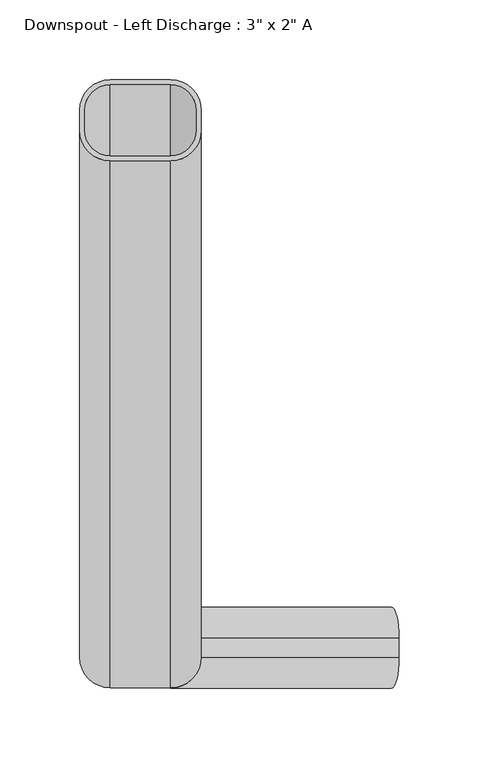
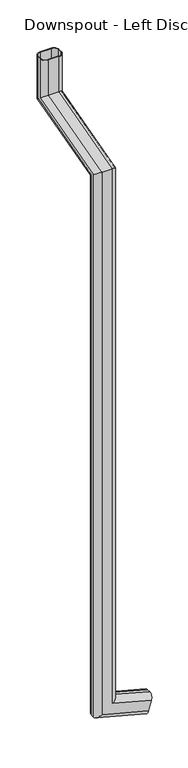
"""IFC4 building model written with IfcOpenShell, lengths in millimetres: proxy geometry."""

from ifc_helpers import new_model, si_unit, frame, origin, place, context, project, spatial, polyline, circle_curve, ellipse_curve, source, transform, mapped, element, save
from ifc_brep_helpers import plane_surface, cylinder_surface, revolved_surface, advanced_brep


def proxy_a602e200(model_context):
    return source(origin(), model_context, "Body", "AdvancedBrep", [
        advanced_brep(
        [(162.2610056, 196.85, 189.201774), (157.3305028, 177.8, 170.800887), (147.4694972, 177.8, 133.999113), (142.5389944, 196.85, 115.598226), (142.5389944, 209.55, 115.598226), (147.4694972, 228.6, 133.999113), (157.3305028, 228.6, 170.800887), (162.2610056, 209.55, 189.201774), (161.4392552, 196.85, 186.1349595), (161.4392552, 209.55, 186.1349595), (157.3305028, 225.425, 170.800887), (147.4694972, 225.425, 133.999113), (143.3607448, 209.55, 118.6650405), (143.3607448, 196.85, 118.6650405), (147.4694972, 180.975, 133.999113), (157.3305028, 180.975, 170.800887), (19.05, 177.8, 207.853036), (38.1, 196.85, 222.4706152), (38.1, 196.85, 2202.395703), (19.05, 177.8, 2217.0132822), (-38.1, 196.85, 164.0002987), (-19.05, 177.8, 178.6178778), (-19.05, 177.8, 2217.0132822), (-38.1, 196.85, 2202.395703), (-38.1, 209.55, 164.0002987), (-38.1, 527.05, 2290.8725264), (-38.1, 527.05, 2438.4), (-38.1, 539.75, 2438.4), (-38.1, 539.75, 2281.1274736), (-38.1, 209.55, 2192.6506503), (-19.05, 228.6, 178.6178778), (-19.05, 228.6, 2178.0330712), (38.1, 209.55, 222.4706152), (19.05, 228.6, 207.853036), (19.05, 228.6, 2178.0330712), (38.1, 209.55, 2192.6506503), (38.1, 539.75, 2281.1274736), (38.1, 539.75, 2438.4), (38.1, 527.05, 2438.4), (38.1, 527.05, 2290.8725264), (34.925, 209.55, 220.034352), (34.925, 196.85, 220.034352), (34.925, 196.85, 2202.395703), (34.925, 527.05, 2290.8725264), (34.925, 527.05, 2438.4), (34.925, 539.75, 2438.4), (34.925, 539.75, 2281.1274736), (34.925, 209.55, 2192.6506503), (19.05, 225.425, 207.853036), (19.05, 225.425, 2180.4693344), (-34.925, 209.55, 166.4365619), (-19.05, 225.425, 178.6178778), (-19.05, 225.425, 2180.4693344), (-34.925, 209.55, 2192.6506503), (-34.925, 196.85, 166.4365619), (-34.925, 539.75, 2281.1274736), (-34.925, 539.75, 2438.4), (-34.925, 527.05, 2438.4), (-34.925, 527.05, 2290.8725264), (-34.925, 196.85, 2202.395703), (-19.05, 180.975, 178.6178778), (-19.05, 180.975, 2214.577019), (19.05, 180.975, 207.853036), (19.05, 180.975, 2214.577019), (19.05, 508.0, 2305.4901055), (-19.05, 508.0, 2305.4901055), (-19.05, 558.8, 2266.5098945), (19.05, 558.8, 2266.5098945), (19.05, 555.625, 2268.9461577), (-19.05, 555.625, 2268.9461577), (-19.05, 511.175, 2303.0538423), (19.05, 511.175, 2303.0538423), (19.05, 558.8, 2438.4), (-19.05, 558.8, 2438.4), (-19.05, 508.0, 2438.4), (19.05, 508.0, 2438.4), (19.05, 511.175, 2438.4), (-19.05, 511.175, 2438.4), (-19.05, 555.625, 2438.4), (19.05, 555.625, 2438.4)],
        [
            (0, 1, circle_curve(frame((157.3305028, 196.85, 170.800887), z_axis=(0.9659258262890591, 0.0, -0.25881904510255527), x_axis=(0.0, -1.0, 0.0)), 19.05)),
            (1, 2),
            (2, 3, circle_curve(frame((147.4694972, 196.85, 133.999113), z_axis=(0.9659258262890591, 0.0, -0.25881904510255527), x_axis=(0.0, -1.0, 0.0)), 19.05)),
            (3, 4),
            (4, 5, circle_curve(frame((147.4694972, 209.55, 133.999113), z_axis=(0.9659258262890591, 0.0, -0.25881904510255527), x_axis=(0.0, -1.0, 0.0)), 19.05)),
            (5, 6),
            (6, 7, circle_curve(frame((157.3305028, 209.55, 170.800887), z_axis=(0.9659258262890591, 0.0, -0.25881904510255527), x_axis=(0.0, -1.0, 0.0)), 19.05)),
            (7, 0),
            (8, 9),
            (9, 10, circle_curve(frame((157.3305028, 209.55, 170.800887), z_axis=(-0.9659258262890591, 0.0, 0.25881904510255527), x_axis=(0.0, -1.0, 0.0)), 15.875)),
            (10, 11),
            (11, 12, circle_curve(frame((147.4694972, 209.55, 133.999113), z_axis=(-0.9659258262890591, 0.0, 0.25881904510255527), x_axis=(0.0, -1.0, 0.0)), 15.875)),
            (12, 13),
            (13, 14, circle_curve(frame((147.4694972, 196.85, 133.999113), z_axis=(-0.9659258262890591, 0.0, 0.25881904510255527), x_axis=(0.0, -1.0, 0.0)), 15.875)),
            (14, 15),
            (15, 8, circle_curve(frame((157.3305028, 196.85, 170.800887), z_axis=(-0.9659258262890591, 0.0, 0.25881904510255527), x_axis=(0.0, -1.0, 0.0)), 15.875)),
            (16, 17, ellipse_curve(frame((19.05, 196.85, 207.853036), z_axis=(-0.6087614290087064, 0.0, 0.793353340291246), x_axis=(-0.7933533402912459, 0.0, -0.6087614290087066)), 24.0119995, 19.05)),
            (17, 18),
            (18, 19, ellipse_curve(frame((19.05, 196.85, 2202.395703), z_axis=(0.0, -0.6087614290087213, -0.7933533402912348), x_axis=(0.0, 0.7933533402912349, -0.608761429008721)), 24.0119995, 19.05)),
            (19, 16),
            (20, 21, ellipse_curve(frame((-19.05, 196.85, 178.6178778), z_axis=(-0.6087614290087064, 0.0, 0.793353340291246), x_axis=(-0.7933533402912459, 0.0, -0.6087614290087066)), 24.0119995, 19.05)),
            (21, 22),
            (22, 23, ellipse_curve(frame((-19.05, 196.85, 2202.395703), z_axis=(0.0, -0.6087614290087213, -0.7933533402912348), x_axis=(0.0, 0.7933533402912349, -0.608761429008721)), 24.0119995, 19.05)),
            (23, 20),
            (24, 20),
            (23, 25),
            (25, 26),
            (26, 27),
            (27, 28),
            (28, 29),
            (29, 24),
            (30, 24, ellipse_curve(frame((-19.05, 209.55, 178.6178778), z_axis=(-0.6087614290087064, 0.0, 0.793353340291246), x_axis=(-0.7933533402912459, 0.0, -0.6087614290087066)), 24.0119995, 19.05)),
            (29, 31, ellipse_curve(frame((-19.05, 209.55, 2192.6506503), z_axis=(0.0, -0.6087614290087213, -0.7933533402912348), x_axis=(0.0, 0.7933533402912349, -0.608761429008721)), 24.0119995, 19.05)),
            (31, 30),
            (32, 33, ellipse_curve(frame((19.05, 209.55, 207.853036), z_axis=(-0.6087614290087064, 0.0, 0.793353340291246), x_axis=(-0.7933533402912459, 0.0, -0.6087614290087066)), 24.0119995, 19.05)),
            (33, 34),
            (34, 35, ellipse_curve(frame((19.05, 209.55, 2192.6506503), z_axis=(0.0, -0.6087614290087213, -0.7933533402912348), x_axis=(0.0, 0.7933533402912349, -0.608761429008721)), 24.0119995, 19.05)),
            (35, 32),
            (17, 32),
            (35, 36),
            (36, 37),
            (37, 38),
            (38, 39),
            (39, 18),
            (40, 41),
            (41, 42),
            (42, 43),
            (43, 44),
            (44, 45),
            (45, 46),
            (46, 47),
            (47, 40),
            (48, 40, ellipse_curve(frame((19.05, 209.55, 207.853036), z_axis=(0.6087614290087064, 0.0, -0.793353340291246), x_axis=(0.7933533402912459, 0.0, 0.6087614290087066)), 20.0099996, 15.875)),
            (47, 49, ellipse_curve(frame((19.05, 209.55, 2192.6506503), z_axis=(0.0, 0.6087614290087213, 0.7933533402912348), x_axis=(0.0, -0.7933533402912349, 0.608761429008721)), 20.0099996, 15.875)),
            (49, 48),
            (50, 51, ellipse_curve(frame((-19.05, 209.55, 178.6178778), z_axis=(0.6087614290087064, 0.0, -0.793353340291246), x_axis=(0.7933533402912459, 0.0, 0.6087614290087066)), 20.0099996, 15.875)),
            (51, 52),
            (52, 53, ellipse_curve(frame((-19.05, 209.55, 2192.6506503), z_axis=(0.0, 0.6087614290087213, 0.7933533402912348), x_axis=(0.0, -0.7933533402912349, 0.608761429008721)), 20.0099996, 15.875)),
            (53, 50),
            (54, 50),
            (53, 55),
            (55, 56),
            (56, 57),
            (57, 58),
            (58, 59),
            (59, 54),
            (60, 54, ellipse_curve(frame((-19.05, 196.85, 178.6178778), z_axis=(0.6087614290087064, 0.0, -0.793353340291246), x_axis=(0.7933533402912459, 0.0, 0.6087614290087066)), 20.0099996, 15.875)),
            (59, 61, ellipse_curve(frame((-19.05, 196.85, 2202.395703), z_axis=(0.0, 0.6087614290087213, 0.7933533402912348), x_axis=(0.0, -0.7933533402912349, 0.608761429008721)), 20.0099996, 15.875)),
            (61, 60),
            (41, 62, ellipse_curve(frame((19.05, 196.85, 207.853036), z_axis=(0.6087614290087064, 0.0, -0.793353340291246), x_axis=(0.7933533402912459, 0.0, 0.6087614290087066)), 20.0099996, 15.875)),
            (62, 63),
            (63, 42, ellipse_curve(frame((19.05, 196.85, 2202.395703), z_axis=(0.0, 0.6087614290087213, 0.7933533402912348), x_axis=(0.0, -0.7933533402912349, 0.608761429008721)), 20.0099996, 15.875)),
            (39, 64, ellipse_curve(frame((19.05, 527.05, 2290.8725264), z_axis=(0.0, -0.6087614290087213, -0.7933533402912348), x_axis=(0.0, -0.7933533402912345, 0.6087614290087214)), 24.0119995, 19.05)),
            (64, 19),
            (22, 19),
            (64, 65),
            (65, 22),
            (65, 25, ellipse_curve(frame((-19.05, 527.05, 2290.8725264), z_axis=(0.0, -0.6087614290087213, -0.7933533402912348), x_axis=(0.0, -0.7933533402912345, 0.6087614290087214)), 24.0119995, 19.05)),
            (28, 66, ellipse_curve(frame((-19.05, 539.75, 2281.1274736), z_axis=(0.0, -0.6087614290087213, -0.7933533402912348), x_axis=(0.0, -0.7933533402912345, 0.6087614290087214)), 24.0119995, 19.05)),
            (66, 31),
            (34, 31),
            (66, 67),
            (67, 34),
            (67, 36, ellipse_curve(frame((19.05, 539.75, 2281.1274736), z_axis=(0.0, -0.6087614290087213, -0.7933533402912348), x_axis=(0.0, -0.7933533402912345, 0.6087614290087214)), 24.0119995, 19.05)),
            (46, 68, ellipse_curve(frame((19.05, 539.75, 2281.1274736), z_axis=(0.0, 0.6087614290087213, 0.7933533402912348), x_axis=(0.0, 0.7933533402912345, -0.6087614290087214)), 20.0099996, 15.875)),
            (68, 49),
            (52, 49),
            (68, 69),
            (69, 52),
            (69, 55, ellipse_curve(frame((-19.05, 539.75, 2281.1274736), z_axis=(0.0, 0.6087614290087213, 0.7933533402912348), x_axis=(0.0, 0.7933533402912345, -0.6087614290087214)), 20.0099996, 15.875)),
            (58, 70, ellipse_curve(frame((-19.05, 527.05, 2290.8725264), z_axis=(0.0, 0.6087614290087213, 0.7933533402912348), x_axis=(0.0, 0.7933533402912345, -0.6087614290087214)), 20.0099996, 15.875)),
            (70, 61),
            (63, 61),
            (70, 71),
            (71, 63),
            (71, 43, ellipse_curve(frame((19.05, 527.05, 2290.8725264), z_axis=(0.0, 0.6087614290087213, 0.7933533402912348), x_axis=(0.0, 0.7933533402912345, -0.6087614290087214)), 20.0099996, 15.875)),
            (37, 72, circle_curve(frame((19.05, 539.75, 2438.4), z_axis=(0.0, 0.0, 1.0), x_axis=(0.0, -1.0, 0.0)), 19.05)),
            (72, 73),
            (73, 27, circle_curve(frame((-19.05, 539.75, 2438.4), z_axis=(0.0, 0.0, 1.0), x_axis=(0.0, -1.0, 0.0)), 19.05)),
            (26, 74, circle_curve(frame((-19.05, 527.05, 2438.4), z_axis=(0.0, 0.0, 1.0), x_axis=(0.0, -1.0, 0.0)), 19.05)),
            (74, 75),
            (75, 38, circle_curve(frame((19.05, 527.05, 2438.4), z_axis=(0.0, 0.0, 1.0), x_axis=(0.0, -1.0, 0.0)), 19.05)),
            (44, 76, circle_curve(frame((19.05, 527.05, 2438.4), z_axis=(0.0, 0.0, -1.0), x_axis=(0.0, -1.0, 0.0)), 15.875)),
            (76, 77),
            (77, 57, circle_curve(frame((-19.05, 527.05, 2438.4), z_axis=(0.0, 0.0, -1.0), x_axis=(0.0, -1.0, 0.0)), 15.875)),
            (56, 78, circle_curve(frame((-19.05, 539.75, 2438.4), z_axis=(0.0, 0.0, -1.0), x_axis=(0.0, -1.0, 0.0)), 15.875)),
            (78, 79),
            (79, 45, circle_curve(frame((19.05, 539.75, 2438.4), z_axis=(0.0, 0.0, -1.0), x_axis=(0.0, -1.0, 0.0)), 15.875)),
            (75, 64),
            (74, 65),
            (73, 66),
            (72, 67),
            (79, 68),
            (78, 69),
            (77, 70),
            (76, 71),
            (0, 17),
            (16, 1),
            (21, 2),
            (20, 3),
            (24, 4),
            (30, 5),
            (33, 6),
            (32, 7),
            (8, 41),
            (40, 9),
            (48, 10),
            (51, 11),
            (50, 12),
            (54, 13),
            (60, 14),
            (62, 15),
        ],
        [
            plane_surface(frame((152.4, 164.5744579, 152.4), z_axis=(0.9659258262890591, 0.0, -0.25881904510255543), x_axis=(0.25881904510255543, 0.0, 0.9659258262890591))),
            cylinder_surface(frame((19.05, 196.85, 193.2354569), z_axis=(0.0, 0.0, -1.0), x_axis=(0.0, -1.0, 0.0)), 19.05),
            cylinder_surface(frame((-19.05, 196.85, 193.2354569), z_axis=(0.0, 0.0, -1.0), x_axis=(0.0, -1.0, 0.0)), 19.05),
            plane_surface(frame((-38.1, 196.85, 164.0002987), z_axis=(-1.0, 0.0, 0.0), x_axis=(0.0, 0.0, 1.0))),
            cylinder_surface(frame((-19.05, 209.55, 193.2354569), z_axis=(0.0, 0.0, -1.0), x_axis=(0.0, -1.0, 0.0)), 19.05),
            cylinder_surface(frame((19.05, 209.55, 193.2354569), z_axis=(0.0, 0.0, -1.0), x_axis=(0.0, -1.0, 0.0)), 19.05),
            plane_surface(frame((38.1, 209.55, 222.4706152), z_axis=(1.0, 0.0, 0.0), x_axis=(0.0, 0.0, 1.0))),
            plane_surface(frame((34.925, 196.85, 220.034352), z_axis=(-1.0, 0.0, 0.0), x_axis=(0.0, 0.0, 1.0))),
            revolved_surface(polyline([(19.05, 193.675, 2204.8319662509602), (19.05, 193.675, 195.67172004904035)]), (19.05, 209.55, 193.2354569), (0.0, 0.0, 1.0)),
            revolved_surface(polyline([(-19.05, 193.675, 2204.8319662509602), (-19.05, 193.675, 166.43656184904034)]), (-19.05, 209.55, 193.2354569), (0.0, 0.0, 1.0)),
            plane_surface(frame((-34.925, 209.55, 166.4365619), z_axis=(1.0, 0.0, 0.0), x_axis=(0.0, 0.0, 1.0))),
            revolved_surface(polyline([(-19.05, 180.975, 2214.577019), (-19.05, 180.975, 166.43656184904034)]), (-19.05, 196.85, 193.2354569), (0.0, 0.0, 1.0)),
            revolved_surface(polyline([(19.05, 180.975, 2214.577019), (19.05, 180.975, 195.67172004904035)]), (19.05, 196.85, 193.2354569), (0.0, 0.0, 1.0)),
            cylinder_surface(frame((19.05, 201.5564991, 2203.6568057), z_axis=(0.0, -0.9659258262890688, -0.2588190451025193), x_axis=(0.0, -0.2588190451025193, 0.9659258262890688)), 19.05),
            plane_surface(frame((19.05, 177.8, 2217.0132822), z_axis=(0.0, -0.25881904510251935, 0.9659258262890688), x_axis=(0.0, 0.9659258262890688, 0.25881904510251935))),
            cylinder_surface(frame((-19.05, 201.5564991, 2203.6568057), z_axis=(0.0, -0.9659258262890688, -0.2588190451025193), x_axis=(0.0, -0.2588190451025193, 0.9659258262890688)), 19.05),
            cylinder_surface(frame((-19.05, 204.8435009, 2191.3895477), z_axis=(0.0, -0.9659258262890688, -0.2588190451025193), x_axis=(0.0, -0.2588190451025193, 0.9659258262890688)), 19.05),
            plane_surface(frame((-19.05, 228.6, 2178.0330712), z_axis=(0.0, 0.2588190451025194, -0.9659258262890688), x_axis=(0.0, 0.9659258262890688, 0.2588190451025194))),
            cylinder_surface(frame((19.05, 204.8435009, 2191.3895477), z_axis=(0.0, -0.9659258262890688, -0.2588190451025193), x_axis=(0.0, -0.2588190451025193, 0.9659258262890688)), 19.05),
            revolved_surface(polyline([(19.05, 547.4074953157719, 2299.6143027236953), (19.05, 193.6749999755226, 2204.8319662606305)]), (19.05, 204.8435009, 2191.3895477), (0.0, 0.9659258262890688, 0.2588190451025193)),
            plane_surface(frame((19.05, 225.425, 2180.4693344), z_axis=(0.0, -0.25881904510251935, 0.9659258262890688), x_axis=(0.0, 0.9659258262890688, 0.25881904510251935))),
            revolved_surface(polyline([(-19.05, 547.4074953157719, 2299.6143027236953), (-19.05, 193.6749999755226, 2204.8319662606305)]), (-19.05, 204.8435009, 2191.3895477), (0.0, 0.9659258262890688, 0.2588190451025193)),
            revolved_surface(polyline([(-19.05, 534.7074953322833, 2309.359355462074), (-19.05, 180.97499996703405, 2214.57701899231)]), (-19.05, 201.5564991, 2203.6568057), (0.0, 0.9659258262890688, 0.2588190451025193)),
            plane_surface(frame((-19.05, 180.975, 2214.577019), z_axis=(0.0, 0.25881904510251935, -0.9659258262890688), x_axis=(0.0, 0.9659258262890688, 0.25881904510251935))),
            revolved_surface(polyline([(19.05, 534.7074953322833, 2309.359355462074), (19.05, 180.97499996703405, 2214.57701899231)]), (19.05, 201.5564991, 2203.6568057), (0.0, 0.9659258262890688, 0.2588190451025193)),
            plane_surface(frame((0.0, 494.7744579, 2438.4), z_axis=(0.0, 0.0, 1.0), x_axis=(1.0, 0.0, 0.0))),
            cylinder_surface(frame((19.05, 527.05, 2286.0), z_axis=(0.0, 0.0, -1.0), x_axis=(0.0, -1.0, 0.0)), 19.05),
            plane_surface(frame((19.05, 508.0, 2305.4901055), z_axis=(0.0, -1.0, 0.0), x_axis=(0.0, 0.0, 1.0))),
            cylinder_surface(frame((-19.05, 527.05, 2286.0), z_axis=(0.0, 0.0, -1.0), x_axis=(0.0, -1.0, 0.0)), 19.05),
            cylinder_surface(frame((-19.05, 539.75, 2286.0), z_axis=(0.0, 0.0, -1.0), x_axis=(0.0, -1.0, 0.0)), 19.05),
            plane_surface(frame((-19.05, 558.8, 2266.5098945), z_axis=(0.0, 1.0, 0.0), x_axis=(0.0, 0.0, 1.0))),
            cylinder_surface(frame((19.05, 539.75, 2286.0), z_axis=(0.0, 0.0, -1.0), x_axis=(0.0, -1.0, 0.0)), 19.05),
            revolved_surface(polyline([(19.05, 523.875, 2438.4), (19.05, 523.875, 2268.9461576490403)]), (19.05, 539.75, 2286.0), (0.0, 0.0, 1.0)),
            plane_surface(frame((19.05, 555.625, 2268.9461577), z_axis=(0.0, -1.0, 0.0), x_axis=(0.0, 0.0, 1.0))),
            revolved_surface(polyline([(-19.05, 523.875, 2438.4), (-19.05, 523.875, 2268.9461576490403)]), (-19.05, 539.75, 2286.0), (0.0, 0.0, 1.0)),
            revolved_surface(polyline([(-19.05, 511.17499999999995, 2438.4), (-19.05, 511.17499999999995, 2278.69121044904)]), (-19.05, 527.05, 2286.0), (0.0, 0.0, 1.0)),
            plane_surface(frame((-19.05, 511.175, 2303.0538423), z_axis=(0.0, 1.0, 0.0), x_axis=(0.0, 0.0, 1.0))),
            revolved_surface(polyline([(19.05, 511.17499999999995, 2438.4), (19.05, 511.17499999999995, 2278.69121044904)]), (19.05, 527.05, 2286.0), (0.0, 0.0, 1.0)),
            cylinder_surface(frame((157.3305028, 196.85, 170.800887), z_axis=(0.9659258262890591, 0.0, -0.25881904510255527), x_axis=(0.0, -1.0, 0.0)), 19.05),
            plane_surface(frame((157.3305028, 177.8, 170.800887), z_axis=(0.0, -1.0, 0.0), x_axis=(-0.965925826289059, 0.0, 0.2588190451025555))),
            cylinder_surface(frame((147.4694972, 196.85, 133.999113), z_axis=(0.9659258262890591, 0.0, -0.25881904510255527), x_axis=(0.0, -1.0, 0.0)), 19.05),
            plane_surface(frame((142.5389944, 196.85, 115.598226), z_axis=(-0.2588190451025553, 0.0, -0.9659258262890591), x_axis=(-0.9659258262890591, 0.0, 0.2588190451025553))),
            cylinder_surface(frame((147.4694972, 209.55, 133.999113), z_axis=(0.9659258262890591, 0.0, -0.25881904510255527), x_axis=(0.0, -1.0, 0.0)), 19.05),
            plane_surface(frame((147.4694972, 228.6, 133.999113), z_axis=(0.0, 1.0000000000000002, 0.0), x_axis=(-0.9659258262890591, 0.0, 0.25881904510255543))),
            cylinder_surface(frame((157.3305028, 209.55, 170.800887), z_axis=(0.9659258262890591, 0.0, -0.25881904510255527), x_axis=(0.0, -1.0, 0.0)), 19.05),
            plane_surface(frame((162.2610056, 209.55, 189.201774), z_axis=(0.25881904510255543, 0.0, 0.9659258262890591), x_axis=(-0.9659258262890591, 0.0, 0.25881904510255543))),
            plane_surface(frame((161.4392552, 196.85, 186.1349595), z_axis=(-0.25881904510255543, 0.0, -0.9659258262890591), x_axis=(-0.9659258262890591, 0.0, 0.25881904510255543))),
            revolved_surface(polyline([(7.2837523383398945, 193.675, 211.00579261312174), (157.3305028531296, 193.675, 170.80088698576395)]), (157.3305028, 209.55, 170.800887), (-0.9659258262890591, 0.0, 0.25881904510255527)),
            plane_surface(frame((157.3305028, 225.425, 170.800887), z_axis=(0.0, -1.0000000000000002, 0.0), x_axis=(-0.9659258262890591, 0.0, 0.2588190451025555))),
            revolved_surface(polyline([(-30.8162476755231, 193.675, 181.7706343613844), (147.4694972, 193.675, 133.999113)]), (147.4694972, 209.55, 133.999113), (-0.9659258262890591, 0.0, 0.25881904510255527)),
            plane_surface(frame((143.3607448, 209.55, 118.6650405), z_axis=(0.25881904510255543, 0.0, 0.9659258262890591), x_axis=(-0.9659258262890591, 0.0, 0.25881904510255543))),
            revolved_surface(polyline([(-30.8162476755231, 180.975, 181.7706343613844), (147.4694972, 180.975, 133.999113)]), (147.4694972, 196.85, 133.999113), (-0.9659258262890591, 0.0, 0.25881904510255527)),
            plane_surface(frame((147.4694972, 180.975, 133.999113), z_axis=(0.0, 1.0000000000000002, 0.0), x_axis=(-0.9659258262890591, 0.0, 0.2588190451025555))),
            revolved_surface(polyline([(7.2837523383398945, 180.975, 211.00579261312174), (157.3305028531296, 180.975, 170.80088698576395)]), (157.3305028, 196.85, 170.800887), (-0.9659258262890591, 0.0, 0.25881904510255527)),
        ],
        [
            (0, [[1, 2, 3, 4, 5, 6, 7, 8], [9, 10, 11, 12, 13, 14, 15, 16]]),
            (1, [[17, 18, 19, 20]]),
            (2, [[21, 22, 23, 24]]),
            (3, [[25, -24, 26, 27, 28, 29, 30, 31]]),
            (4, [[32, -31, 33, 34]]),
            (5, [[35, 36, 37, 38]]),
            (6, [[39, -38, 40, 41, 42, 43, 44, -18]]),
            (7, [[45, 46, 47, 48, 49, 50, 51, 52]]),
            (8, [[53, -52, 54, 55]]),
            (9, [[56, 57, 58, 59]]),
            (10, [[60, -59, 61, 62, 63, 64, 65, 66]]),
            (11, [[67, -66, 68, 69]]),
            (12, [[70, 71, 72, -46]]),
            (13, [[-19, -44, 73, 74]]),
            (14, [[75, -74, 76, 77]]),
            (15, [[-23, -77, 78, -26]]),
            (16, [[-33, -30, 79, 80]]),
            (17, [[81, -80, 82, 83]]),
            (18, [[-37, -83, 84, -40]]),
            (19, [[-54, -51, 85, 86]]),
            (20, [[87, -86, 88, 89]]),
            (21, [[-58, -89, 90, -61]]),
            (22, [[-68, -65, 91, 92]]),
            (23, [[93, -92, 94, 95]]),
            (24, [[-72, -95, 96, -47]]),
            (25, [[-42, 97, 98, 99, -28, 100, 101, 102], [103, 104, 105, -63, 106, 107, 108, -49]]),
            (26, [[-73, -43, -102, 109]]),
            (27, [[-76, -109, -101, 110]]),
            (28, [[-78, -110, -100, -27]]),
            (29, [[-79, -29, -99, 111]]),
            (30, [[-82, -111, -98, 112]]),
            (31, [[-84, -112, -97, -41]]),
            (32, [[-85, -50, -108, 113]]),
            (33, [[-88, -113, -107, 114]]),
            (34, [[-90, -114, -106, -62]]),
            (35, [[-91, -64, -105, 115]]),
            (36, [[-94, -115, -104, 116]]),
            (37, [[-96, -116, -103, -48]]),
            (38, [[-1, 117, -17, 118]]),
            (39, [[-2, -118, -20, -75, -22, 119]]),
            (40, [[-3, -119, -21, 120]]),
            (41, [[-4, -120, -25, 121]]),
            (42, [[-5, -121, -32, 122]]),
            (43, [[-6, -122, -34, -81, -36, 123]]),
            (44, [[-7, -123, -35, 124]]),
            (45, [[-8, -124, -39, -117]]),
            (46, [[-9, 125, -45, 126]]),
            (47, [[-10, -126, -53, 127]]),
            (48, [[-11, -127, -55, -87, -57, 128]]),
            (49, [[-12, -128, -56, 129]]),
            (50, [[-13, -129, -60, 130]]),
            (51, [[-14, -130, -67, 131]]),
            (52, [[-15, -131, -69, -93, -71, 132]]),
            (53, [[-16, -132, -70, -125]]),
        ],
    ),
    ])


if __name__ == "__main__":
    model = new_model("IFC4")
    model_context = context("Model", 3, world=origin())
    ifc_project = project(units=[si_unit("LENGTHUNIT", "METRE", prefix="MILLI")], contexts=[model_context])
    site = spatial("IfcSite", under=ifc_project)
    building = spatial("IfcBuilding", under=site)
    placement = place(None, origin())
    proxy_shape = proxy_a602e200(model_context)
    element("IfcBuildingElementProxy", 1, Name="Downspout - Left Discharge : 3\" x 2\" A", ObjectType="Downspout - Left Discharge : 3\" x 2\" A", at=placement, inside=building, context=model_context, shape_type="MappedRepresentation", body=[
        mapped(proxy_shape, transform((0.0, 0.0, 0.0), x_axis=(1.0, 0.0, 0.0), y_axis=(0.0, 1.0, 0.0), z_axis=(0.0, 0.0, 1.0))),
    ])
    save(model, "model.ifc")
